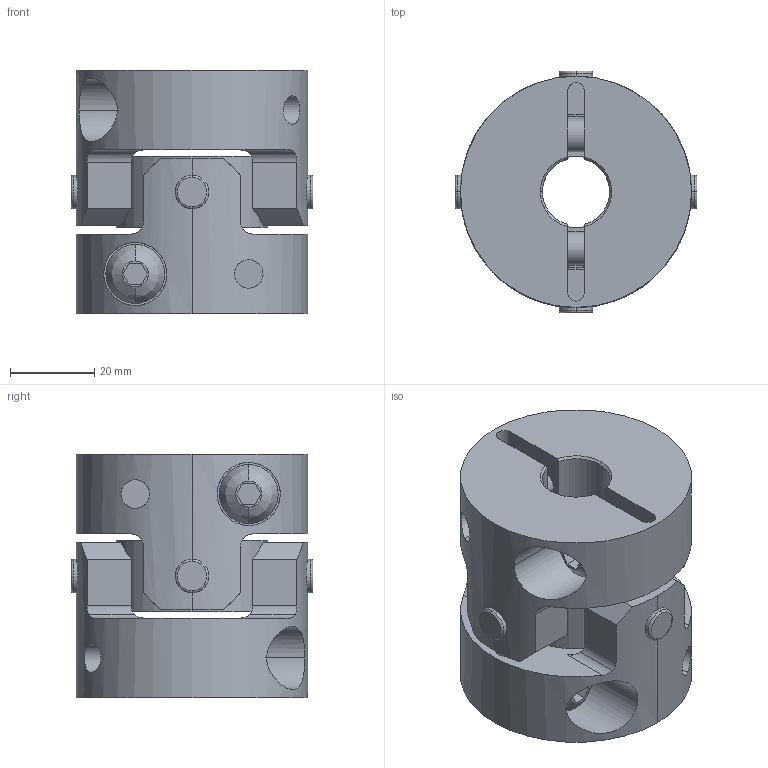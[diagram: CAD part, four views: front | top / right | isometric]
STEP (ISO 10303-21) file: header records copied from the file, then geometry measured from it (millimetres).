
FILE_DESCRIPTION((''),'2;1');
FILE_NAME('UA-55C-16×17.stp','2013-05-22T11:53:55',(''),(''),'AutoCAD STEP 2000i','AutoCAD 2000i',', , ');
FILE_SCHEMA(('CONFIG_CONTROL_DESIGN'));
Length unit declared in the file: millimetre
Products named in the file (6): UA-55C-10×10; 忣兜1; UA-5502-D10-1; BTN-M8; UA-5502-D10; UA55-SEN
Assembly tree (6 placements, depth 3):
  UA-55C-10×10
    忣兜1
    UA-5502-D10-1
      BTN-M8
    UA-5502-D10
      BTN-M8
    UA55-SEN
Bounding box: 57.55 x 57.55 x 58 mm (x, y, z)
Volume: 97720 mm3; surface area: 31723.8 mm2
Topology: 1 solids, 1 shells, 206 faces, 554 edges, 364 vertices
Faces by surface type: cylinder 96, plane 78, cone 16, bspline 8, torus 8
Entity records: 8383 total; most frequent: CARTESIAN_POINT 3067, ORIENTED_EDGE 1108, DIRECTION 1064, EDGE_CURVE 554, AXIS2_PLACEMENT_3D 409, VERTEX_POINT 364, VECTOR 246, LINE 246
